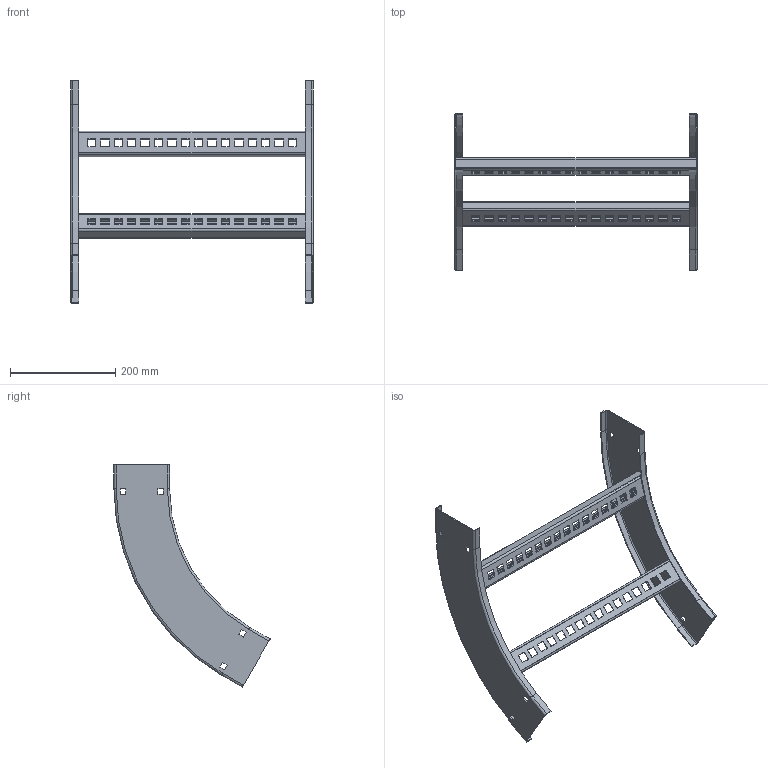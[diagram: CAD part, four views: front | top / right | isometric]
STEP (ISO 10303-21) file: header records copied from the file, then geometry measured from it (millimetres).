
FILE_DESCRIPTION((''),'2;1');
FILE_NAME('AUF418LVO6012_ASM','2010-02-01T',('erouzier'),(''),'PRO/ENGINEER BY PARAMETRIC TECHNOLOGY CORPORATION, 2008510','PRO/ENGINEER BY PARAMETRIC TECHNOLOGY CORPORATION, 2008510','');
FILE_SCHEMA(('CONFIG_CONTROL_DESIGN'));
Length unit declared in the file: inch
Products named in the file (3): CDS001416_4_60_12; CDS002159L18-P; AUF418LVO6012_ASM
Assembly tree (4 placements, depth 2):
  AUF418LVO6012_ASM
    CDS001416_4_60_12  x2
    CDS002159L18-P  x2
Bounding box: 461.31 x 296.48 x 422.08 mm (x, y, z)
Volume: 365129.1 mm3; surface area: 448410.9 mm2
Topology: 4 solids, 4 shells, 432 faces, 1208 edges, 784 vertices
Faces by surface type: plane 250, cylinder 174, torus 8
Entity records: 7120 total; most frequent: DIRECTION 1228, CARTESIAN_POINT 1219, ORIENTED_EDGE 1208, EDGE_CURVE 604, VECTOR 426, LINE 426, AXIS2_PLACEMENT_3D 401, VERTEX_POINT 392
